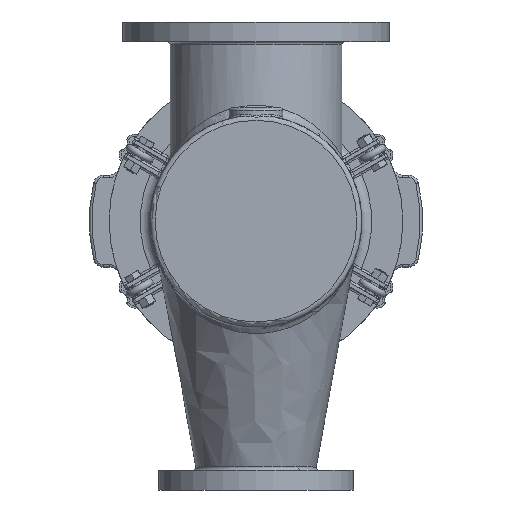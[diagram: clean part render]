
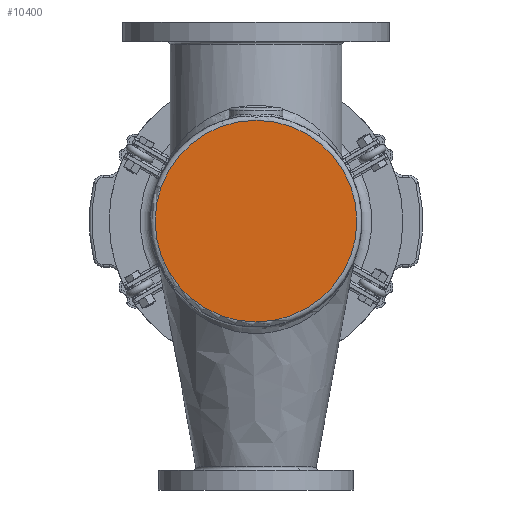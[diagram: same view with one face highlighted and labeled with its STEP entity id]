
A CAD part, front view. The second image highlights one B-rep face of the part: STEP entity #10400.
In plain terms, the highlighted planar face has unit normal (0, -1, 0).
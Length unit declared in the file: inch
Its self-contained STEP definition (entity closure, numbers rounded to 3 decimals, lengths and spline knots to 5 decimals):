
#1328=PLANE('',#11104);
#2217=FACE_OUTER_BOUND('',#2892,.T.);
#2892=EDGE_LOOP('',(#6924));
#3745=CIRCLE('',#11096,5.0625);
#4462=VERTEX_POINT('',#16062);
#5413=EDGE_CURVE('',#4462,#4462,#3745,.T.);
#6924=ORIENTED_EDGE('',*,*,#5413,.F.);
#10400=ADVANCED_FACE('',(#2217),#1328,.F.);
#11096=AXIS2_PLACEMENT_3D('',#16063,#12518,#12519);
#11104=AXIS2_PLACEMENT_3D('',#16074,#12534,#12535);
#12518=DIRECTION('center_axis',(0.,1.,0.));
#12519=DIRECTION('ref_axis',(1.,0.,0.));
#12534=DIRECTION('center_axis',(0.,1.,0.));
#12535=DIRECTION('ref_axis',(0.,0.,1.));
#16062=CARTESIAN_POINT('',(-5.0625,0.,0.));
#16063=CARTESIAN_POINT('Origin',(0.,0.,0.));
#16074=CARTESIAN_POINT('Origin',(0.,0.,0.));
